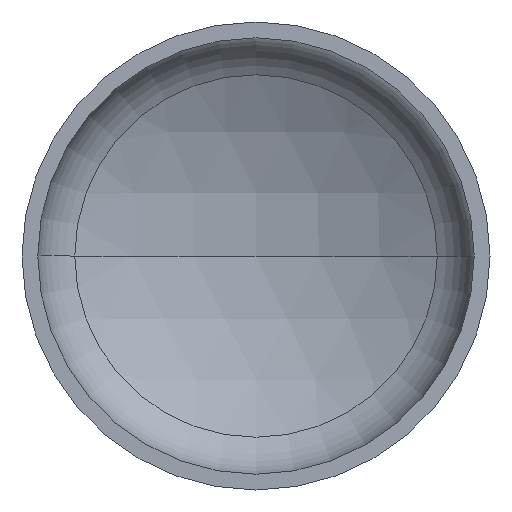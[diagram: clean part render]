
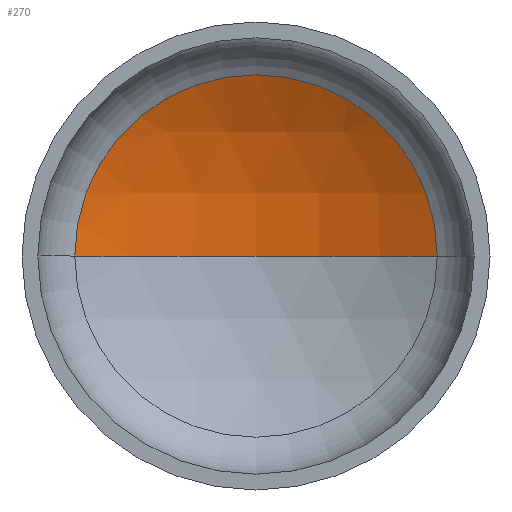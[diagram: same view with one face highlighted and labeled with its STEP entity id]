
A CAD part, front view. The second image highlights one B-rep face of the part: STEP entity #270.
In plain terms, the highlighted spherical face has radius 2560 mm.
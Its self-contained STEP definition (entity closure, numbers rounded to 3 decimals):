
#20 = EDGE_CURVE ( 'NONE', #248, #119, #125, .T. ) ;
#22 = EDGE_CURVE ( 'NONE', #409, #248, #210, .T. ) ;
#29 = DIRECTION ( 'NONE',  ( -1., 0., 0. ) ) ;
#56 = DIRECTION ( 'NONE',  ( 0., -1., 0. ) ) ;
#76 = CARTESIAN_POINT ( 'NONE',  ( 0., -1736.324, 0. ) ) ;
#92 = CARTESIAN_POINT ( 'NONE',  ( 0., 823.676, 0. ) ) ;
#99 = CARTESIAN_POINT ( 'NONE',  ( 1239.188, 503.768, 0. ) ) ;
#100 = AXIS2_PLACEMENT_3D ( 'NONE', #308, #213, #109 ) ;
#109 = DIRECTION ( 'NONE',  ( 1., 0., 0. ) ) ;
#116 = DIRECTION ( 'NONE',  ( -1., 0., 0. ) ) ;
#119 = VERTEX_POINT ( 'NONE', #128 ) ;
#123 = AXIS2_PLACEMENT_3D ( 'NONE', #223, #316, #116 ) ;
#125 = CIRCLE ( 'NONE', #236, 1239.188 ) ;
#128 = CARTESIAN_POINT ( 'NONE',  ( -1239.188, 503.768, 0. ) ) ;
#140 = CARTESIAN_POINT ( 'NONE',  ( 0., 503.768, 0. ) ) ;
#172 = CIRCLE ( 'NONE', #100, 2560. ) ;
#178 = DIRECTION ( 'NONE',  ( 0., 0., -1. ) ) ;
#189 = ORIENTED_EDGE ( 'NONE', *, *, #22, .T. ) ;
#210 = CIRCLE ( 'NONE', #258, 2560. ) ;
#213 = DIRECTION ( 'NONE',  ( 0., 0., 1. ) ) ;
#223 = CARTESIAN_POINT ( 'NONE',  ( 0., -1736.324, 0. ) ) ;
#236 = AXIS2_PLACEMENT_3D ( 'NONE', #140, #56, #275 ) ;
#248 = VERTEX_POINT ( 'NONE', #99 ) ;
#257 = ORIENTED_EDGE ( 'NONE', *, *, #20, .T. ) ;
#258 = AXIS2_PLACEMENT_3D ( 'NONE', #76, #178, #29 ) ;
#270 = ADVANCED_FACE ( 'NONE', ( #345 ), #333, .F. ) ;
#272 = EDGE_CURVE ( 'NONE', #409, #119, #172, .T. ) ;
#275 = DIRECTION ( 'NONE',  ( 1., 0., 0. ) ) ;
#308 = CARTESIAN_POINT ( 'NONE',  ( 0., -1736.324, 0. ) ) ;
#316 = DIRECTION ( 'NONE',  ( 0., 0., -1. ) ) ;
#328 = ORIENTED_EDGE ( 'NONE', *, *, #272, .F. ) ;
#333 = SPHERICAL_SURFACE ( 'NONE', #123, 2560. ) ;
#345 = FACE_OUTER_BOUND ( 'NONE', #405, .T. ) ;
#405 = EDGE_LOOP ( 'NONE', ( #328, #189, #257 ) ) ;
#409 = VERTEX_POINT ( 'NONE', #92 ) ;
